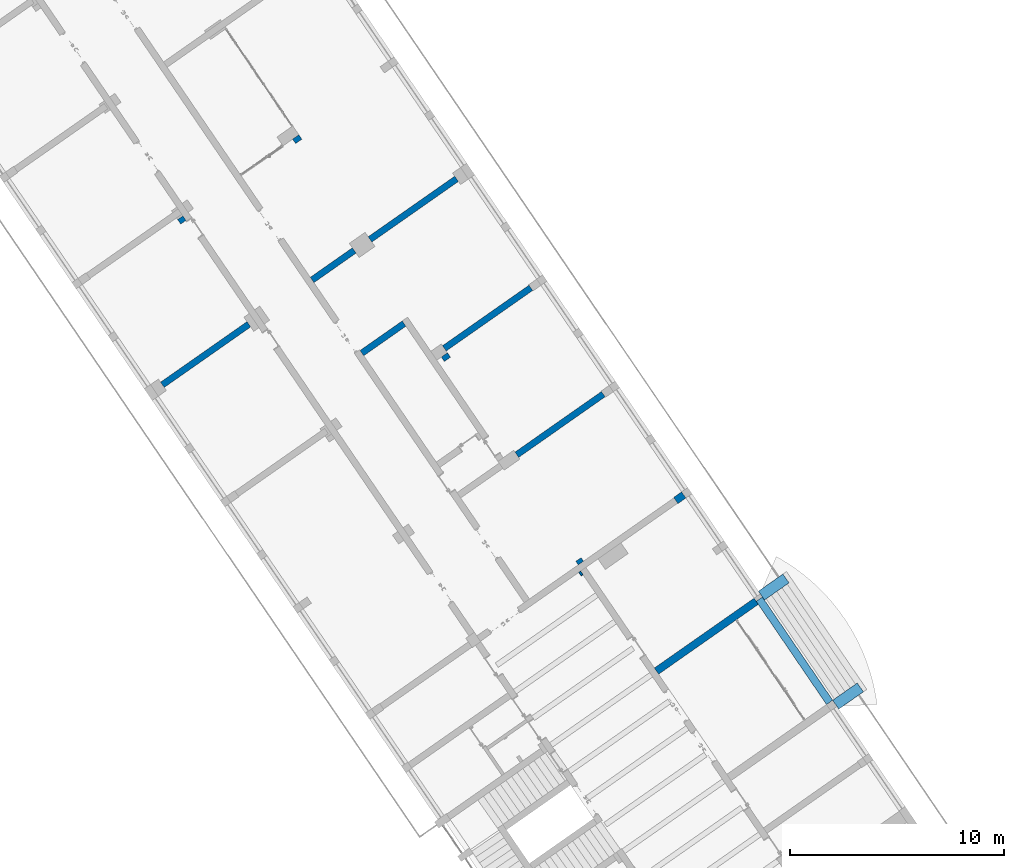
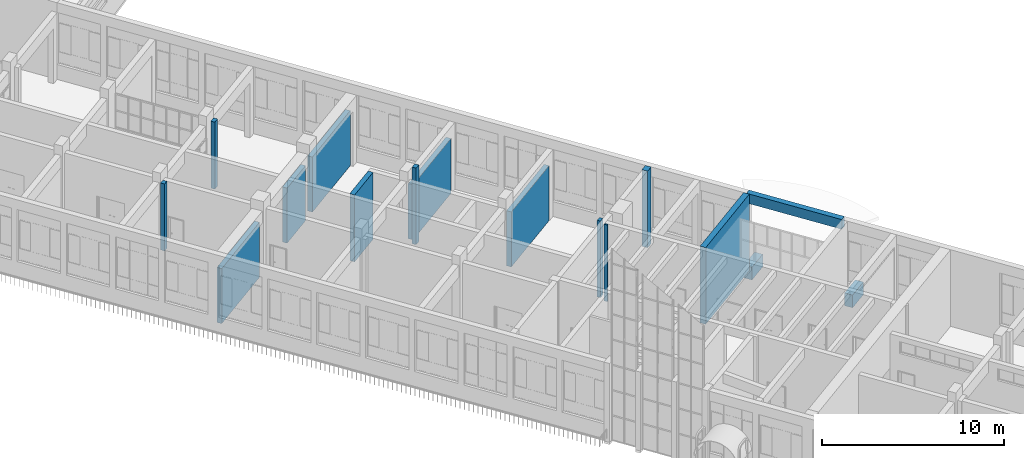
# One storey, part 80 of 157: 16 walls.
"""IFC2X3 building model written with IfcOpenShell, lengths in millimetres."""

from ifc_helpers import new_model, entity, si_unit, converted_unit, derived_unit, direction, frame, frame_2d, origin, place, context, subcontext, project, spatial, polyline, rectangle, outline, extrude, material, layer, layer_set, layer_usage, type_object, element, save


model = new_model("IFC2X3")

# Units and contexts
model_context = context("Model", 3, precision=0.01, world=origin(), true_north=direction((6.123031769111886e-17, 1.0)))
body_context = subcontext(model_context, "Body", "Model", "MODEL_VIEW")
ifc_project = project(units=[si_unit("LENGTHUNIT", "METRE", prefix="MILLI"), si_unit("AREAUNIT", "SQUARE_METRE"), si_unit("VOLUMEUNIT", "CUBIC_METRE"), converted_unit("PLANEANGLEUNIT", "DEGREE", entity("IfcRatioMeasure", 0.017453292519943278), si_unit("PLANEANGLEUNIT", "RADIAN"), dimensions=[0, 0, 0, 0, 0, 0, 0]), si_unit("MASSUNIT", "GRAM", prefix="KILO"), derived_unit("MASSDENSITYUNIT", [(si_unit("MASSUNIT", "GRAM", prefix="KILO"), 1), (si_unit("LENGTHUNIT", "METRE"), -3)]), derived_unit("MOMENTOFINERTIAUNIT", [(si_unit("LENGTHUNIT", "METRE"), 4)]), si_unit("TIMEUNIT", "SECOND"), si_unit("FREQUENCYUNIT", "HERTZ"), si_unit("THERMODYNAMICTEMPERATUREUNIT", "DEGREE_CELSIUS"), derived_unit("THERMALTRANSMITTANCEUNIT", [(si_unit("MASSUNIT", "GRAM", prefix="KILO"), 1), (si_unit("THERMODYNAMICTEMPERATUREUNIT", "KELVIN"), -1), (si_unit("TIMEUNIT", "SECOND"), -3)]), derived_unit("THERMALCONDUCTANCEUNIT", [(si_unit("MASSUNIT", "GRAM", prefix="KILO"), 1), (si_unit("LENGTHUNIT", "METRE"), 1), (si_unit("THERMODYNAMICTEMPERATUREUNIT", "KELVIN"), -1), (si_unit("TIMEUNIT", "SECOND"), -3)]), derived_unit("VOLUMETRICFLOWRATEUNIT", [(si_unit("LENGTHUNIT", "METRE"), 3), (si_unit("TIMEUNIT", "SECOND"), -1)]), derived_unit("MASSFLOWRATEUNIT", [(si_unit("MASSUNIT", "GRAM", prefix="KILO"), 1), (si_unit("TIMEUNIT", "SECOND"), -1)]), derived_unit("ROTATIONALFREQUENCYUNIT", [(si_unit("TIMEUNIT", "SECOND"), -1)]), si_unit("ELECTRICCURRENTUNIT", "AMPERE"), si_unit("ELECTRICVOLTAGEUNIT", "VOLT"), si_unit("POWERUNIT", "WATT"), converted_unit("FORCEUNIT", "KIP", entity("IfcRatioMeasure", 2.088543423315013e-05), si_unit("FORCEUNIT", "NEWTON"), dimensions=[1, 1, -2, 0, 0, 0, 0]), si_unit("ILLUMINANCEUNIT", "LUX"), si_unit("LUMINOUSFLUXUNIT", "LUMEN"), si_unit("LUMINOUSINTENSITYUNIT", "CANDELA"), derived_unit("USERDEFINED", [(si_unit("MASSUNIT", "GRAM", prefix="KILO"), -1), (si_unit("LENGTHUNIT", "METRE"), -2), (si_unit("TIMEUNIT", "SECOND"), 3), (si_unit("LUMINOUSFLUXUNIT", "LUMEN"), 1)]), derived_unit("USERDEFINED", [(si_unit("MASSUNIT", "GRAM", prefix="KILO"), 1), (si_unit("LENGTHUNIT", "METRE"), 3), (si_unit("TIMEUNIT", "SECOND"), -3), (si_unit("ELECTRICCURRENTUNIT", "AMPERE"), -2)]), derived_unit("USERDEFINED", [(si_unit("LENGTHUNIT", "METRE"), 2), (si_unit("TIMEUNIT", "SECOND"), -2)]), derived_unit("SOUNDPOWERUNIT", [(si_unit("MASSUNIT", "GRAM", prefix="KILO"), 1), (si_unit("LENGTHUNIT", "METRE"), 2), (si_unit("TIMEUNIT", "SECOND"), -3)]), derived_unit("SOUNDPRESSUREUNIT", [(si_unit("MASSUNIT", "GRAM", prefix="KILO"), 1), (si_unit("LENGTHUNIT", "METRE"), -1), (si_unit("TIMEUNIT", "SECOND"), -2)]), derived_unit("LINEARVELOCITYUNIT", [(si_unit("LENGTHUNIT", "METRE"), 1), (si_unit("TIMEUNIT", "SECOND"), -1)]), si_unit("PRESSUREUNIT", "PASCAL"), derived_unit("USERDEFINED", [(si_unit("LENGTHUNIT", "METRE"), -2), (si_unit("MASSUNIT", "GRAM", prefix="KILO"), 1), (si_unit("TIMEUNIT", "SECOND"), -2)]), derived_unit("LINEARFORCEUNIT", [(si_unit("MASSUNIT", "GRAM", prefix="KILO"), 1), (si_unit("LENGTHUNIT", "METRE"), 1), (si_unit("TIMEUNIT", "SECOND"), -2), (si_unit("LENGTHUNIT", "METRE"), -1)]), derived_unit("PLANARFORCEUNIT", [(si_unit("MASSUNIT", "GRAM", prefix="KILO"), 1), (si_unit("LENGTHUNIT", "METRE"), 1), (si_unit("TIMEUNIT", "SECOND"), -2), (si_unit("LENGTHUNIT", "METRE"), -2)]), derived_unit("SPECIFICHEATCAPACITYUNIT", [(si_unit("LENGTHUNIT", "METRE"), 2), (si_unit("TIMEUNIT", "SECOND"), -2), (si_unit("THERMODYNAMICTEMPERATUREUNIT", "KELVIN"), -1)]), derived_unit("VAPORPERMEABILITYUNIT", [(si_unit("TIMEUNIT", "SECOND"), 1), (si_unit("LENGTHUNIT", "METRE"), -1)]), derived_unit("DYNAMICVISCOSITYUNIT", [(si_unit("MASSUNIT", "GRAM", prefix="KILO"), 1), (si_unit("LENGTHUNIT", "METRE"), -1), (si_unit("TIMEUNIT", "SECOND"), -1)]), derived_unit("THERMALEXPANSIONCOEFFICIENTUNIT", [(si_unit("THERMODYNAMICTEMPERATUREUNIT", "KELVIN"), -1)])], contexts=[model_context])

# Site, building, storey
site_placement = place(None, frame((0.0, 0.0, 0.0), z_axis=(0.0, 0.0, 1.0), x_axis=(0.8191520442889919, 0.5735764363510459, 0.0)))
site = spatial("IfcSite", under=ifc_project, at=site_placement, Name="Default", CompositionType="ELEMENT")
building_placement = place(site_placement, origin())
building = spatial("IfcBuilding", under=site, at=building_placement, CompositionType="ELEMENT")
storey_placement = place(building_placement, origin())
storey = spatial("IfcBuildingStorey", under=building, at=storey_placement, Name="1.EG +0.00", CompositionType="ELEMENT", Elevation=-4.331468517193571e-12)

# Walls
ifc_material = material(Name="Analytical Wall Surface_CJC")
ifc_layer_1 = layer(ifc_material, 350.0)
ifc_layer_set_1 = layer_set([ifc_layer_1], Name="Basic Wall:Wand_Aussen_35")
ifc_layer_usage_1 = layer_usage(ifc_layer_set_1, "AXIS2", "POSITIVE", -175.0)
wall_type_1 = type_object("IfcWallType", Name="Basic Wall:Wand_Aussen_35", PredefinedType="STANDARD", material=ifc_layer_set_1)
wall_1_placement = place(storey_placement, frame((-204995.50206021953, 109869.1330491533, 4500.0), z_axis=(0.0, 0.0, 1.0), x_axis=(0.012719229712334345, 0.9999191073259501, 0.0)))
element("IfcWallStandardCase", 1, at=wall_1_placement, inside=storey, type_object=wall_type_1, material=ifc_layer_usage_1, Name="Basic Wall:Wand_Aussen_35", ObjectType="Basic Wall:Wand_Aussen_35", context=body_context, shape_type="SweptSolid", body=[
    extrude(outline(polyline([(5827.697283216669, -175.0), (5827.6972832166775, 175.0), (5650.457080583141, 175.0), (0.0, 175.0), (4.452090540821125, -175.0), (5654.909171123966, -175.0), (5827.697283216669, -175.0)])), origin(), (0.0, 0.0, 1.0), 650.0000000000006),
])
ifc_layer_2 = layer(ifc_material, 300.0)
ifc_layer_set_2 = layer_set([ifc_layer_2], Name="Basic Wall:Wand_Innen_30")
ifc_layer_usage_2 = layer_usage(ifc_layer_set_2, "AXIS2", "NEGATIVE", 150.0)
wall_type_2 = type_object("IfcWallType", Name="Basic Wall:Wand_Innen_30", PredefinedType="STANDARD", material=ifc_layer_set_2)
for number, where, z_axis, x_axis, name in (
    (2, (-205399.0480033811, 127696.35891435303, 0.0), (0.0, 0.0, 1.0), (-1.0, 0.0, 0.0), "Basic Wall:Wand_Innen_30"),
    (3, (-205322.6642884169, 133696.35891435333, 0.0), (0.0, 0.0, 1.0), (-1.0, 0.0, 0.0), "Basic Wall:Wand_Innen_30"),
):
    element("IfcWallStandardCase", number, at=place(storey_placement, frame(where, z_axis=z_axis, x_axis=x_axis)), inside=storey, type_object=wall_type_2, material=ifc_layer_usage_2, Name=name, ObjectType="Basic Wall:Wand_Innen_30", context=body_context, shape_type="SweptSolid", body=[
        extrude(rectangle(XDim=4920.486186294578, YDim=300.00000000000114, at=frame_2d((2460.243093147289, -1.5916157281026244e-12), x_axis=(-1.0, 0.0))), origin(), (0.0, 0.0, 1.0), 3700.0000000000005),
    ])
wall_2_placement = place(storey_placement, frame((-211115.38701273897, 135721.35891435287, 0.0), z_axis=(0.0, 0.0, 1.0), x_axis=(-1.0, 0.0, 0.0)))
element("IfcWallStandardCase", 4, at=wall_2_placement, inside=storey, type_object=wall_type_2, material=ifc_layer_usage_2, Name="Basic Wall:Wand_Innen_30", ObjectType="Basic Wall:Wand_Innen_30", context=body_context, shape_type="SweptSolid", body=[
    extrude(outline(polyline([(2400.3174584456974, -150.0), (2404.136644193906, 150.0), (3.9429703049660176, 150.0), (0.0, -150.0), (2400.3174584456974, -150.0)])), origin(), (0.0, 0.0, 1.0), 4500.0),
])
wall_3_placement = place(storey_placement, frame((-205243.50758747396, 139846.35891435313, 0.0), z_axis=(0.0, 0.0, 1.0), x_axis=(-1.0, 0.0, 0.0)))
element("IfcWallStandardCase", 5, at=wall_3_placement, inside=storey, type_object=wall_type_2, material=ifc_layer_usage_2, Name="Basic Wall:Wand_Innen_30", ObjectType="Basic Wall:Wand_Innen_30", context=body_context, shape_type="SweptSolid", body=[
    extrude(rectangle(XDim=4923.25917227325, YDim=300.00000000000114, at=frame_2d((2461.629586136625, 2.7426949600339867e-12), x_axis=(-1.0, 0.0))), origin(), (0.0, 0.0, 1.0), 3700.0000000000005),
])
wall_4_placement = place(storey_placement, frame((-211066.76675974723, 139846.35891435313, 0.0), z_axis=(0.0, 0.0, 1.0), x_axis=(-1.0, 0.0, 0.0)))
element("IfcWallStandardCase", 6, at=wall_4_placement, inside=storey, type_object=wall_type_2, material=ifc_layer_usage_2, Name="Basic Wall:Wand_Innen_30", ObjectType="Basic Wall:Wand_Innen_30", context=body_context, shape_type="SweptSolid", body=[
    extrude(outline(polyline([(2396.423907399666, -150.0), (2400.2430931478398, 150.0), (0.0, 150.0), (0.0, -150.0), (2396.423907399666, -150.0)])), origin(), (0.0, 0.0, 1.0), 3700.0000000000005),
])
wall_5_placement = place(storey_placement, frame((-216837.8671216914, 145496.35891435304, 0.0), z_axis=(0.0, 0.0, 1.0), x_axis=(0.0, 1.0, 0.0)))
element("IfcWallStandardCase", 7, at=wall_5_placement, inside=storey, type_object=wall_type_2, material=ifc_layer_usage_2, Name="Basic Wall:Wand_Innen_30", ObjectType="Basic Wall:Wand_Innen_30", context=body_context, shape_type="SweptSolid", body=[
    extrude(rectangle(XDim=249.99999999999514, YDim=300.0000000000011, at=frame_2d((124.99999999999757, 7.105427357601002e-13), x_axis=(-1.0, 0.0))), origin(), (0.0, 0.0, 1.0), 4500.0),
])
wall_6_placement = place(storey_placement, frame((-217065.34335316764, 139846.35891435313, 0.0), z_axis=(0.0, 0.0, 1.0), x_axis=(-1.0, 0.0, 0.0)))
element("IfcWallStandardCase", 8, at=wall_6_placement, inside=storey, type_object=wall_type_2, material=ifc_layer_usage_2, Name="Basic Wall:Wand_Innen_30", ObjectType="Basic Wall:Wand_Innen_30", context=body_context, shape_type="SweptSolid", body=[
    extrude(rectangle(XDim=4920.4861862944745, YDim=300.00000000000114, at=frame_2d((2460.2430931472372, 2.7426949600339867e-12), x_axis=(-1.0, 0.0))), origin(), (0.0, 0.0, 1.0), 3700.0000000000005),
])
wall_7_placement = place(storey_placement, frame((-210766.44368163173, 122046.35891435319, 0.0), z_axis=(0.0, 0.0, 1.0), x_axis=(-0.012729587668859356, -0.999918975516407, 0.0)))
element("IfcWallStandardCase", 9, at=wall_7_placement, inside=storey, type_object=wall_type_2, material=ifc_layer_usage_2, Name="Basic Wall:Wand_Innen_30", ObjectType="Basic Wall:Wand_Innen_30", context=body_context, shape_type="SweptSolid", body=[
    extrude(outline(polyline([(201.9257990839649, -150.0), (198.10661333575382, 150.0), (0.0, 150.0), (0.0, -150.0), (201.9257990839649, -150.0)])), origin(), (0.0, 0.0, 1.0), 5150.000000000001),
])
ifc_layer_3 = layer(ifc_material, 350.0)
ifc_layer_set_3 = layer_set([ifc_layer_3], Name="Basic Wall:Wand_Innen_35")
ifc_layer_usage_3 = layer_usage(ifc_layer_set_3, "AXIS2", "NEGATIVE", 175.0)
wall_type_3 = type_object("IfcWallType", Name="Basic Wall:Wand_Innen_35", PredefinedType="STANDARD", material=ifc_layer_set_3)
wall_8_placement = place(storey_placement, frame((-210418.1504747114, 133196.35891435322, 0.0), z_axis=(0.0, 0.0, 1.0), x_axis=(0.0, 1.0, 0.0)))
element("IfcWallStandardCase", 10, at=wall_8_placement, inside=storey, type_object=wall_type_3, material=ifc_layer_usage_3, Name="Basic Wall:Wand_Innen_35", ObjectType="Basic Wall:Wand_Innen_35", context=body_context, shape_type="SweptSolid", body=[
    extrude(rectangle(XDim=250.00000000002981, YDim=350.0000000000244, at=frame_2d((125.00000000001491, 5.400124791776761e-13), x_axis=(-1.0, 0.0))), origin(), (0.0, 0.0, 1.0), 5150.000000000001),
])
wall_9_placement = place(storey_placement, frame((-210774.52947795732, 115696.35891435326, 0.0)))
element("IfcWallStandardCase", 11, at=wall_9_placement, inside=storey, type_object=wall_type_3, material=ifc_layer_usage_3, Name="Basic Wall:Wand_Innen_35", ObjectType="Basic Wall:Wand_Innen_35", context=body_context, shape_type="SweptSolid", body=[
    extrude(outline(polyline([(5675.91103554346, -175.0), (5680.363126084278, 175.0), (4.455716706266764, 175.0), (0.0, -175.0), (5675.91103554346, -175.0)])), origin(), (0.0, 0.0, 1.0), 5150.000000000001),
])
wall_10_placement = place(storey_placement, frame((-210267.87841004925, 145498.5956314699, 0.0), z_axis=(0.0, 0.0, 1.0), x_axis=(0.0, 1.0, 0.0)))
element("IfcWallStandardCase", 12, at=wall_10_placement, inside=storey, type_object=wall_type_3, material=ifc_layer_usage_3, Name="Basic Wall:Wand_Innen_35", ObjectType="Basic Wall:Wand_Innen_35", context=body_context, shape_type="SweptSolid", body=[
    extrude(rectangle(XDim=247.76328288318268, YDim=350.0000000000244, at=frame_2d((123.88164144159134, 5.400124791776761e-13), x_axis=(-1.0, 0.0))), origin(), (0.0, 0.0, 1.0), 4500.0),
])
wall_11_placement = place(storey_placement, frame((-205017.84479974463, 121696.35891435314, 0.0), z_axis=(0.0, 0.0, 1.0), x_axis=(-1.0, 0.0, 0.0)))
element("IfcWallStandardCase", 13, at=wall_11_placement, inside=storey, type_object=wall_type_3, material=ifc_layer_usage_3, Name="Basic Wall:Wand_Innen_35", ObjectType="Basic Wall:Wand_Innen_35", context=body_context, shape_type="SweptSolid", body=[
    extrude(outline(polyline([(452.6010990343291, -175.0), (452.6010990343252, -150.0), (452.60109903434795, 150.0), (452.6010990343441, 175.0), (4.452090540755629, 175.0), (0.0, -175.0), (452.6010990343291, -175.0)])), origin(), (0.0, 0.0, 1.0), 5150.000000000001),
])
ifc_layer_4 = layer(ifc_material, 200.0)
ifc_layer_set_4 = layer_set([ifc_layer_4], Name="Basic Wall:Wand_Innen_20")
ifc_layer_usage_4 = layer_usage(ifc_layer_set_4, "AXIS2", "NEGATIVE", 100.0)
wall_type_4 = type_object("IfcWallType", Name="Basic Wall:Wand_Innen_20", PredefinedType="STANDARD", material=ifc_layer_set_4)
wall_12_placement = place(storey_placement, frame((-211099.12081719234, 121446.35891435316, 0.0)))
element("IfcWallStandardCase", 14, at=wall_12_placement, inside=storey, type_object=wall_type_4, material=ifc_layer_usage_4, Name="Basic Wall:Wand_Innen_20", ObjectType="Basic Wall:Wand_Innen_20", context=body_context, shape_type="SweptSolid", body=[
    extrude(outline(polyline([(98.72288653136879, -100.0), (101.26901036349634, 100.0), (0.0, 100.0), (0.0, -100.0), (98.72288653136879, -100.0)])), origin(), (0.0, 0.0, 1.0), 5150.000000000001),
])
ifc_layer_5 = layer(ifc_material, 500.00000000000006)
ifc_layer_set_5 = layer_set([ifc_layer_5], Name="Basic Wall:Wand_Aussen_50")
ifc_layer_usage_5 = layer_usage(ifc_layer_set_5, "AXIS2", "POSITIVE", -250.00000000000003)
wall_type_5 = type_object("IfcWallType", Name="Basic Wall:Wand_Aussen_50", PredefinedType="STANDARD", material=ifc_layer_set_5)
wall_13_placement = place(storey_placement, frame((-203420.84366601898, 109621.35891435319, -850.0), z_axis=(0.0, 0.0, 1.0), x_axis=(-1.0, 0.0, 0.0)))
element("IfcWallStandardCase", 15, at=wall_13_placement, inside=storey, type_object=wall_type_5, material=ifc_layer_usage_5, Name="Basic Wall:Wand_Aussen_50", ObjectType="Basic Wall:Wand_Aussen_50", context=body_context, shape_type="SweptSolid", body=[
    extrude(outline(polyline([(1400.1137107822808, -250.0), (1406.4790420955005, 250.0), (0.0, 250.0), (0.0, -250.0), (1400.1137107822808, -250.0)])), origin(), (0.0, 0.0, 1.0), 850.0),
])
ifc_layer_usage_6 = layer_usage(ifc_layer_set_5, "AXIS2", "NEGATIVE", 250.00000000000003)
wall_14_placement = place(storey_placement, frame((-203348.91566776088, 115771.35891435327, -850.0), z_axis=(0.0, 0.0, 1.0), x_axis=(-1.0, 0.0, 0.0)))
element("IfcWallStandardCase", 16, at=wall_14_placement, inside=storey, type_object=wall_type_5, material=ifc_layer_usage_6, Name="Basic Wall:Wand_Aussen_50", ObjectType="Basic Wall:Wand_Aussen_50", context=body_context, shape_type="SweptSolid", body=[
    extrude(outline(polyline([(1393.748133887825, -250.0), (1400.1134652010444, 250.0), (0.0, 250.0), (0.0, -250.0), (1393.748133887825, -250.0)])), origin(), (0.0, 0.0, 1.0), 850.0),
])

save(model, "model.ifc")
